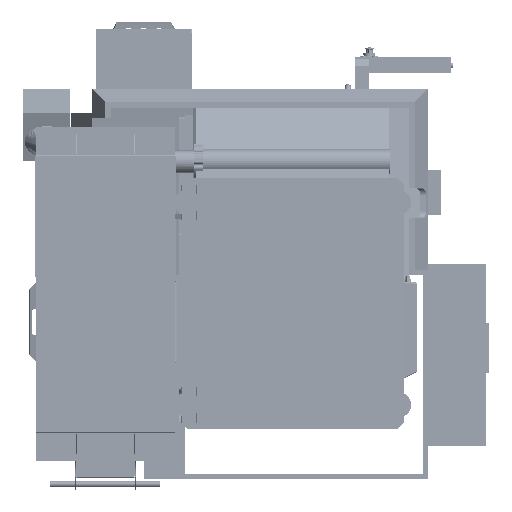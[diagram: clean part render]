
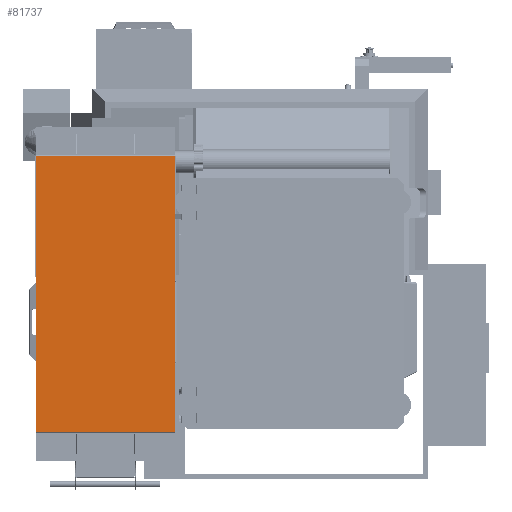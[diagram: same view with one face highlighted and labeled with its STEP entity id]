
A CAD part, front view. The second image highlights one B-rep face of the part: STEP entity #81737.
In plain terms, the highlighted planar face has unit normal (0, -1, 0).
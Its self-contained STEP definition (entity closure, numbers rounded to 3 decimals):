
#13169 = CARTESIAN_POINT ( 'NONE',  ( -50.649, -3.903, 25.526 ) ) ;
#15424 = EDGE_CURVE ( 'NONE', #186615, #53706, #273482, .T. ) ;
#21477 = FACE_OUTER_BOUND ( 'NONE', #377953, .T. ) ;
#32172 = CARTESIAN_POINT ( 'NONE',  ( -36.997, -3.903, -1.765 ) ) ;
#53706 = VERTEX_POINT ( 'NONE', #331424 ) ;
#81737 = ADVANCED_FACE ( 'NONE', ( #21477 ), #311082, .T. ) ;
#104720 = CARTESIAN_POINT ( 'NONE',  ( -50.649, -3.903, 25.535 ) ) ;
#109369 = VECTOR ( 'NONE', #219215, 39.37 ) ;
#116999 = EDGE_CURVE ( 'NONE', #53706, #247069, #415025, .T. ) ;
#129341 = EDGE_CURVE ( 'NONE', #422373, #186615, #393664, .T. ) ;
#181990 = CARTESIAN_POINT ( 'NONE',  ( -23.346, -3.903, -29.066 ) ) ;
#186615 = VERTEX_POINT ( 'NONE', #231224 ) ;
#195487 = DIRECTION ( 'NONE',  ( 0., -1., 0. ) ) ;
#207974 = EDGE_CURVE ( 'NONE', #247069, #422373, #409304, .T. ) ;
#219215 = DIRECTION ( 'NONE',  ( -1., 0., 0. ) ) ;
#225445 = ORIENTED_EDGE ( 'NONE', *, *, #15424, .T. ) ;
#231224 = CARTESIAN_POINT ( 'NONE',  ( -23.346, -3.903, -29.056 ) ) ;
#247069 = VERTEX_POINT ( 'NONE', #13169 ) ;
#255862 = CARTESIAN_POINT ( 'NONE',  ( -50.649, -3.903, -29.056 ) ) ;
#260790 = DIRECTION ( 'NONE',  ( -1., 0., 0. ) ) ;
#264778 = ORIENTED_EDGE ( 'NONE', *, *, #129341, .T. ) ;
#273482 = LINE ( 'NONE', #181990, #406684 ) ;
#276863 = AXIS2_PLACEMENT_3D ( 'NONE', #32172, #195487, #260790 ) ;
#279683 = VECTOR ( 'NONE', #361058, 39.37 ) ;
#295787 = CARTESIAN_POINT ( 'NONE',  ( -50.659, -3.903, -29.056 ) ) ;
#309274 = DIRECTION ( 'NONE',  ( 0., 0., -1. ) ) ;
#311082 = PLANE ( 'NONE',  #276863 ) ;
#331424 = CARTESIAN_POINT ( 'NONE',  ( -23.346, -3.903, 25.526 ) ) ;
#359235 = ORIENTED_EDGE ( 'NONE', *, *, #116999, .T. ) ;
#361058 = DIRECTION ( 'NONE',  ( 1., 0., 0. ) ) ;
#377953 = EDGE_LOOP ( 'NONE', ( #359235, #430497, #264778, #225445 ) ) ;
#382435 = CARTESIAN_POINT ( 'NONE',  ( -23.336, -3.903, 25.526 ) ) ;
#393664 = LINE ( 'NONE', #295787, #279683 ) ;
#397709 = VECTOR ( 'NONE', #309274, 39.37 ) ;
#406684 = VECTOR ( 'NONE', #410440, 39.37 ) ;
#409304 = LINE ( 'NONE', #104720, #397709 ) ;
#410440 = DIRECTION ( 'NONE',  ( 0., 0., 1. ) ) ;
#415025 = LINE ( 'NONE', #382435, #109369 ) ;
#422373 = VERTEX_POINT ( 'NONE', #255862 ) ;
#430497 = ORIENTED_EDGE ( 'NONE', *, *, #207974, .T. ) ;
